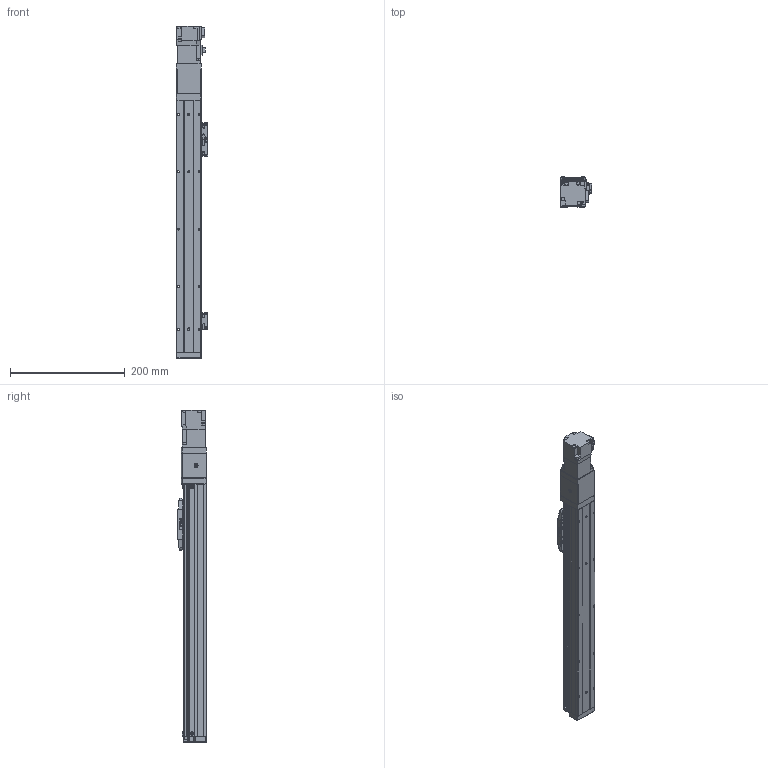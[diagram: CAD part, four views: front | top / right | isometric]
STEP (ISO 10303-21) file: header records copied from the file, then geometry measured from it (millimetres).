
FILE_DESCRIPTION (( 'STEP AP203' ), '1' );
FILE_NAME ('GTH4-300-BC-M05-C4.STEP', '2024-01-05T01:02:44', ( '' ), ( '' ), 'SwSTEP 2.0', 'SolidWorks 2020', '' );
FILE_SCHEMA (( 'CONFIG_CONTROL_DESIGN' ));
Length unit declared in the file: millimetre
Products named in the file (19): GBT96.1-2002 3×0.8; BTH50-023; GBT 70.3-M3℅6; BTH40-013; BTH40-004; GTH4-300-BC-M05-C4; GBT70.1-2000 M3×16; BTH40-006; BTH40-022; BTH40-005-1; GBT 70.1-M2.5×6; BTH50-028; BTH50-024; HG-KR13; BTH-M3X5X6; BTH40-003; GBT 70.1-M3℅6; BTH40-017_笢俶; BTH40-001-50_BTH40-001-300
Assembly tree (49 placements, depth 2):
  GTH4-300-BC-M05-C4
    BTH40-001-50_BTH40-001-300
    BTH40-003
    BTH40-006
    BTH-M3X5X6  x10
    GBT70.1-2000 M3×16  x4
    BTH50-028  x2
    BTH50-023  x3
    BTH50-024  x3
    GBT 70.1-M3℅6  x6
    GBT96.1-2002 3×0.8  x6
    BTH40-022
    GBT 70.1-M2.5×6  x2
    BTH40-004
    BTH40-013
    HG-KR13
    GBT 70.3-M3℅6  x4
    BTH40-017_笢俶
    BTH40-005-1
Bounding box: 55.2 x 52 x 579.4 mm (x, y, z)
Volume: 918367.8 mm3; surface area: 186182.9 mm2
Topology: 51 solids, 51 shells, 1856 faces, 4350 edges, 2686 vertices
Faces by surface type: plane 1026, cylinder 457, cone 237, torus 132, sphere 4
Entity records: 33996 total; most frequent: CARTESIAN_POINT 5499, DIRECTION 5489, ORIENTED_EDGE 5162, EDGE_CURVE 2581, AXIS2_PLACEMENT_3D 1839, LINE 1811, VECTOR 1811, VERTEX_POINT 1617
